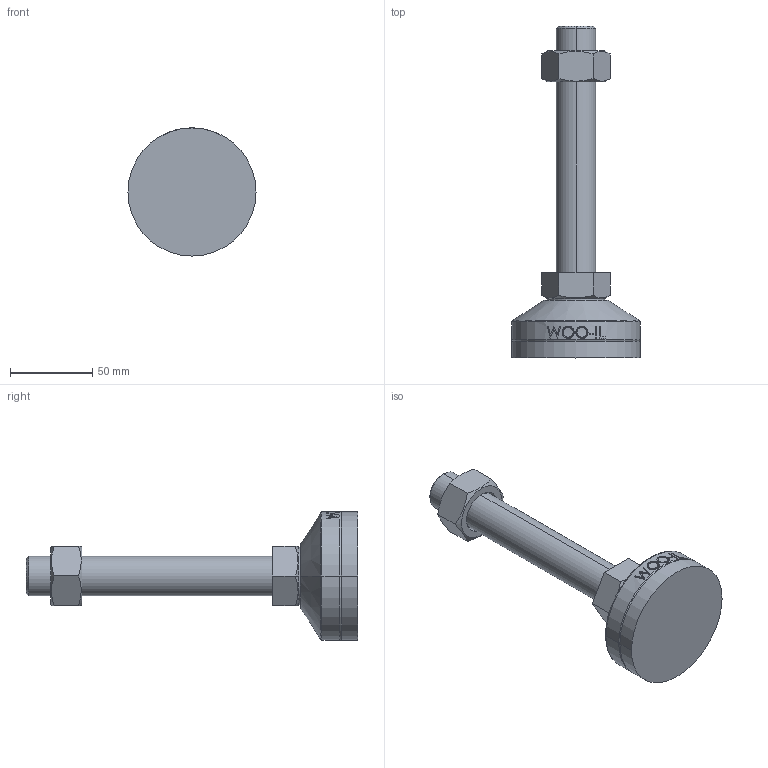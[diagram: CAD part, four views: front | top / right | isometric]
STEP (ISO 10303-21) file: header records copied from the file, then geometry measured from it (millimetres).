
FILE_DESCRIPTION (( 'STEP AP214' ), '1' );
FILE_NAME ('MFR78-M24-150.step', '2021-01-13T05:40:16', ( '' ), ( '' ), 'SwSTEP 2.0', 'SolidWorks 2019', '' );
FILE_SCHEMA (( 'AUTOMOTIVE_DESIGN' ));
Length unit declared in the file: millimetre
Products named in the file (2): MFR78-M24-150
Bounding box: 78 x 202 x 78 mm (x, y, z)
Volume: 241297.8 mm3; surface area: 45576 mm2
Topology: 4 solids, 4 shells, 103 faces, 239 edges, 154 vertices
Faces by surface type: plane 49, cylinder 18, bspline 16, cone 14, torus 6
Entity records: 4503 total; most frequent: CARTESIAN_POINT 2210, ORIENTED_EDGE 478, DIRECTION 417, EDGE_CURVE 239, AXIS2_PLACEMENT_3D 159, VERTEX_POINT 154, EDGE_LOOP 115, FACE_OUTER_BOUND 103
